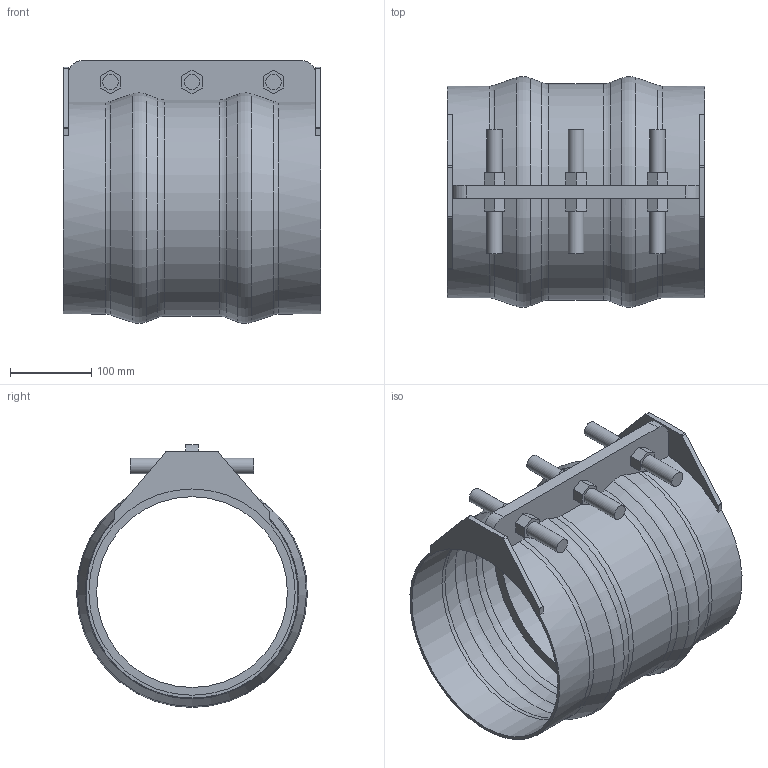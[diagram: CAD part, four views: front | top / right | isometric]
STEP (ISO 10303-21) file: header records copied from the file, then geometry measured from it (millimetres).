
FILE_DESCRIPTION(/* description */ ('VIC RESTRAINED COUPLING STYLE 233 (FLEX) (BRD)','CAx-IF Rec.Pracs.---Representation and Presentation of Product Manufacturing Information (PMI)---4.0---2014-10-13'),/* implementation_level */ '2;1');
FILE_NAME(/* name */ 'C:\Users\Vjadhav\Desktop\CAD for Inventor\Test for STEP\Vivek\Adsk_Inventor_Bolted Sleeve_iParts\STEP\Victaulic_VBSP_Coupling Flexible Restrained_Style 233 (BRD)\Victaulic_VBSP_Coupling Flexible Restrained_Style 233 (BRD)_300psi_10 (250).stp',/* time_stamp */ '2020-09-24T12:28:41+06:00',/* author */ ('Vjadhav'),/* organization */ ('Victaulic'),/* preprocessor_version */ 'ST-DEVELOPER v17.2',/* originating_system */ 'Autodesk Inventor 2019',/* authorisation */ '');
FILE_SCHEMA (('AP242_MANAGED_MODEL_BASED_3D_ENGINEERING_MIM_LF { 1 0 10303 442 1 1 4 }'));
Length unit declared in the file: inch
Products named in the file (1): Style_233_Type_2_300psi-10.0
Bounding box: 317.5 x 283.98 x 323.73 mm (x, y, z)
Volume: 1589462 mm3; surface area: 641973.8 mm2
Topology: 1 solids, 1 shells, 111 faces, 301 edges, 206 vertices
Faces by surface type: plane 67, cylinder 24, torus 12, cone 8
Full cylindrical faces by diameter (mm): 19.05 x6, 234.95 x1, 254 x2, 260.35 x2
Entity records: 3858 total; most frequent: CARTESIAN_POINT 732, DIRECTION 633, ORIENTED_EDGE 602, EDGE_CURVE 301, AXIS2_PLACEMENT_3D 227, VERTEX_POINT 206, LINE 179, VECTOR 179
